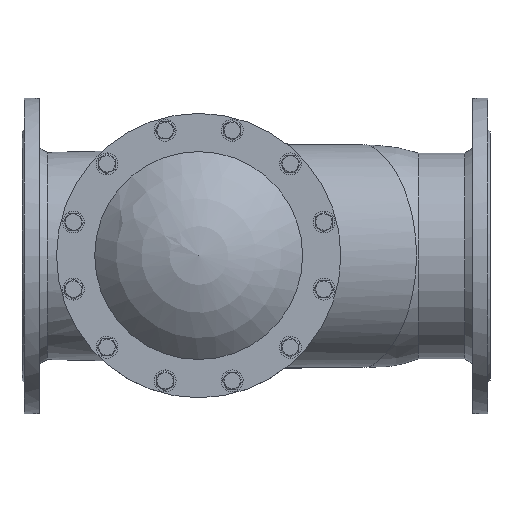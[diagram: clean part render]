
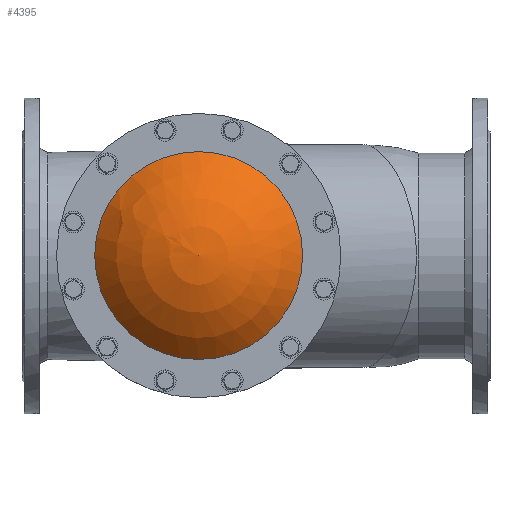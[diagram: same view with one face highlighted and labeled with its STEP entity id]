
A CAD part, top view. The second image highlights one B-rep face of the part: STEP entity #4395.
In plain terms, the highlighted spherical face has radius 174.232 mm.
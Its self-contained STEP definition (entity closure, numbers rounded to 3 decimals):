
#4395=ADVANCED_FACE('',(#8233),#8235,.T.);
#8233=FACE_OUTER_BOUND('',#8234,.T.);
#8234=EDGE_LOOP('',(#12801));
#8235=SPHERICAL_SURFACE('',#8236,174.232);
#8236=AXIS2_PLACEMENT_3D('',#8237,#8238,#8239);
#8237=CARTESIAN_POINT('',(0.,0.,-98.232));
#8238=DIRECTION('',(0.,0.,1.));
#8239=DIRECTION('',(0.,1.,0.));
#12801=ORIENTED_EDGE('',*,*,#14055,.F.);
#14055=EDGE_CURVE('',#15896,#15896,#15897,.F.);
#15896=VERTEX_POINT('',#22527);
#15897=CIRCLE('',#22528,133.269);
#22527=CARTESIAN_POINT('',(0.,133.269,14.));
#22528=AXIS2_PLACEMENT_3D('',#22529,#22530,#22531);
#22529=CARTESIAN_POINT('',(0.,0.,14.));
#22530=DIRECTION('',(0.,0.,1.));
#22531=DIRECTION('',(0.,1.,0.));
